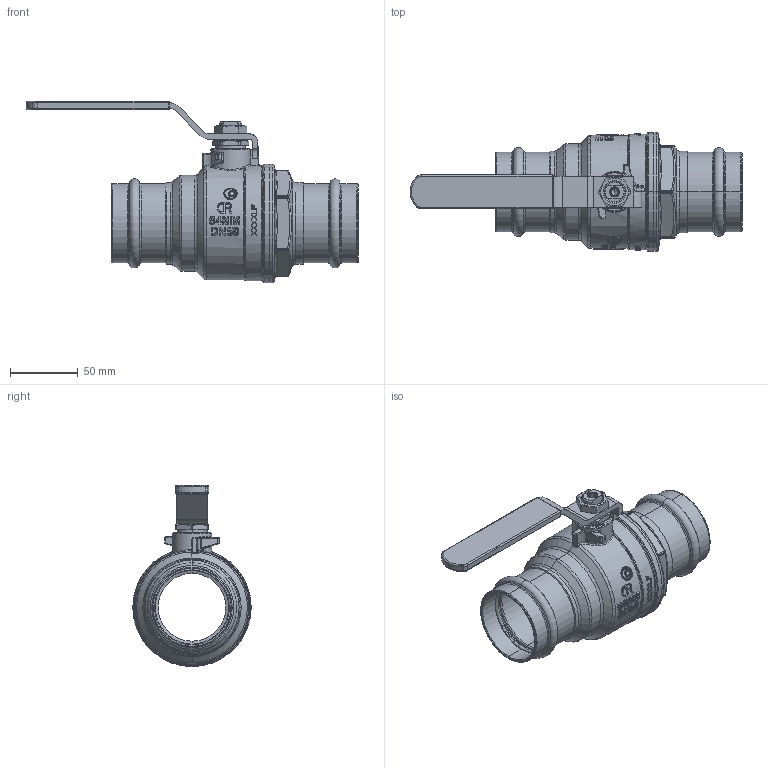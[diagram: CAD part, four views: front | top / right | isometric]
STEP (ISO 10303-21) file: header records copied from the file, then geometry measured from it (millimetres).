
FILE_DESCRIPTION(('Open CASCADE Model'),'2;1');
FILE_NAME('Open CASCADE Shape Model','2021-11-22T13:26:49',('Author'),( 'Open CASCADE'),'Open CASCADE STEP processor 7.3','Open CASCADE 7.3' ,'Unknown');
FILE_SCHEMA(('AUTOMOTIVE_DESIGN { 1 0 10303 214 1 1 1 1 }'));
Length unit declared in the file: millimetre
Products named in the file (26): Open CASCADE STEP translator 7.3 1; Open CASCADE STEP translator 7.3 1.1; Open CASCADE STEP translator 7.3 1.2; Open CASCADE STEP translator 7.3 1.3; Open CASCADE STEP translator 7.3 1.4; Open CASCADE STEP translator 7.3 1.5; Open CASCADE STEP translator 7.3 1.6; Open CASCADE STEP translator 7.3 1.7; Open CASCADE STEP translator 7.3 1.8; Open CASCADE STEP translator 7.3 1.9; Open CASCADE STEP translator 7.3 1.10; Open CASCADE STEP translator 7.3 1.11; Open CASCADE STEP translator 7.3 1.12; Open CASCADE STEP translator 7.3 1.13; Open CASCADE STEP translator 7.3 1.14; Open CASCADE STEP translator 7.3 1.15; Open CASCADE STEP translator 7.3 1.16; Open CASCADE STEP translator 7.3 1.17; Open CASCADE STEP translator 7.3 1.18; Open CASCADE STEP translator 7.3 1.19; Open CASCADE STEP translator 7.3 1.20; Open CASCADE STEP translator 7.3 1.21; Open CASCADE STEP translator 7.3 1.22; Open CASCADE STEP translator 7.3 1.23; Open CASCADE STEP translator 7.3 1.24; Open CASCADE STEP translator 7.3 1.25
Assembly tree (25 placements, depth 2):
  Open CASCADE STEP translator 7.3 1
    Open CASCADE STEP translator 7.3 1.1
    Open CASCADE STEP translator 7.3 1.2
    Open CASCADE STEP translator 7.3 1.3
    Open CASCADE STEP translator 7.3 1.4
    Open CASCADE STEP translator 7.3 1.5
    Open CASCADE STEP translator 7.3 1.6
    Open CASCADE STEP translator 7.3 1.7
    Open CASCADE STEP translator 7.3 1.8
    Open CASCADE STEP translator 7.3 1.9
    Open CASCADE STEP translator 7.3 1.10
    Open CASCADE STEP translator 7.3 1.11
    Open CASCADE STEP translator 7.3 1.12
    Open CASCADE STEP translator 7.3 1.13
    Open CASCADE STEP translator 7.3 1.14
    Open CASCADE STEP translator 7.3 1.15
    Open CASCADE STEP translator 7.3 1.16
    Open CASCADE STEP translator 7.3 1.17
    Open CASCADE STEP translator 7.3 1.18
    Open CASCADE STEP translator 7.3 1.19
    Open CASCADE STEP translator 7.3 1.20
    Open CASCADE STEP translator 7.3 1.21
    Open CASCADE STEP translator 7.3 1.22
    Open CASCADE STEP translator 7.3 1.23
    Open CASCADE STEP translator 7.3 1.24
    Open CASCADE STEP translator 7.3 1.25
Bounding box: 245.1 x 87.5 x 133.75 mm (x, y, z)
Volume: 315252.8 mm3; surface area: 171092.3 mm2
Topology: 15 solids, 25 shells, 1376 faces, 3299 edges, 1997 vertices
Faces by surface type: bspline 561, cylinder 252, plane 228, cone 123, torus 119, extrusion 56, sphere 21, revolution 16
Entity records: 183822 total; most frequent: CARTESIAN_POINT 127524, DIRECTION 7038, ORIENTED_EDGE 6532, PCURVE 6532, DEFINITIONAL_REPRESENTATION 6532, B_SPLINE_CURVE_WITH_KNOTS 5294, VECTOR 3459, LINE 3403
